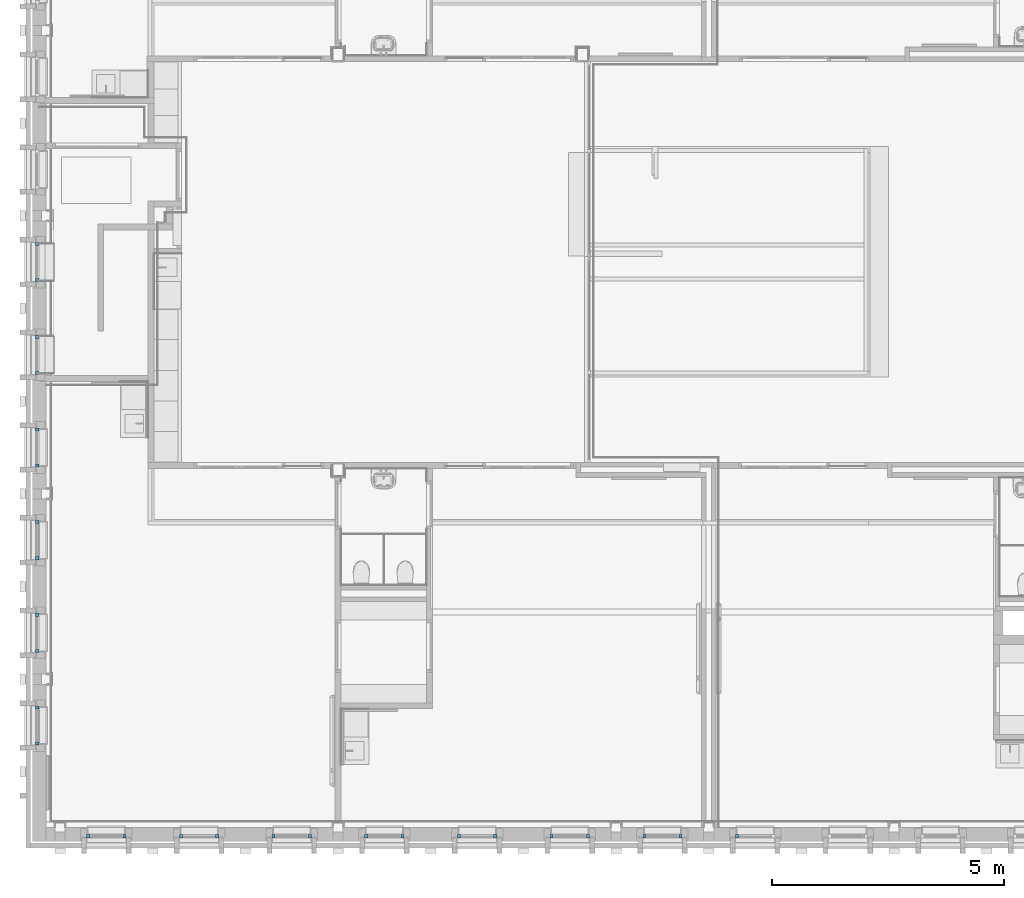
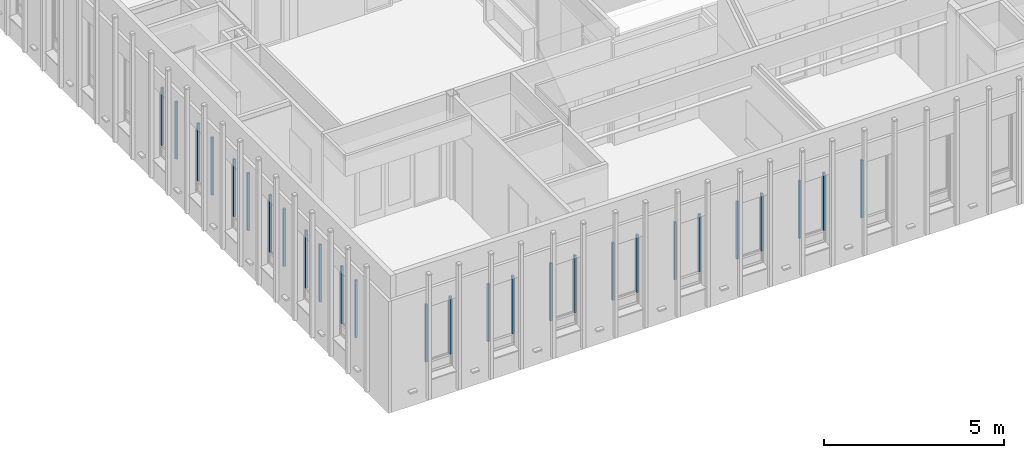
# One storey, part 1 of 118: 27 members, 14 elements without a shape of their own.
"""IFC2X3 building model written with IfcOpenShell, lengths in millimetres."""

from ifc_helpers import new_model, entity, si_unit, converted_unit, derived_unit, direction, frame, origin, origin_2d_with_axis, place, context, subcontext, project, spatial, rectangle, extrude, source, transform, mapped, material, material_list, type_object, type_shapes, element, aggregate, save


model = new_model("IFC2X3")

# Units and contexts
model_context = context("Model", 3, precision=0.01, world=origin(), true_north=direction((6.123031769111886e-17, 1.0)))
plan_context = context("Plan", 3, precision=0.01, world=origin(), true_north=direction((6.123031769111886e-17, 1.0)))
body_context = subcontext(model_context, "Body", "Model", "MODEL_VIEW")
ifc_project = project(units=[si_unit("LENGTHUNIT", "METRE", prefix="MILLI"), si_unit("AREAUNIT", "SQUARE_METRE"), si_unit("VOLUMEUNIT", "CUBIC_METRE"), converted_unit("PLANEANGLEUNIT", "DEGREE", entity("IfcRatioMeasure", 0.017453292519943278), si_unit("PLANEANGLEUNIT", "RADIAN"), dimensions=[0, 0, 0, 0, 0, 0, 0]), si_unit("MASSUNIT", "GRAM", prefix="KILO"), derived_unit("MASSDENSITYUNIT", [(si_unit("MASSUNIT", "GRAM", prefix="KILO"), 1), (si_unit("LENGTHUNIT", "METRE"), -3)]), derived_unit("IONCONCENTRATIONUNIT", [(si_unit("MASSUNIT", "GRAM", prefix="KILO"), 1), (si_unit("LENGTHUNIT", "METRE"), -3)]), derived_unit("MOMENTOFINERTIAUNIT", [(si_unit("LENGTHUNIT", "METRE"), 4)]), si_unit("TIMEUNIT", "SECOND"), si_unit("FREQUENCYUNIT", "HERTZ"), si_unit("THERMODYNAMICTEMPERATUREUNIT", "DEGREE_CELSIUS"), derived_unit("THERMALTRANSMITTANCEUNIT", [(si_unit("MASSUNIT", "GRAM", prefix="KILO"), 1), (si_unit("THERMODYNAMICTEMPERATUREUNIT", "KELVIN"), -1), (si_unit("TIMEUNIT", "SECOND"), -3)]), derived_unit("THERMALCONDUCTANCEUNIT", [(si_unit("MASSUNIT", "GRAM", prefix="KILO"), 1), (si_unit("THERMODYNAMICTEMPERATUREUNIT", "KELVIN"), -1), (si_unit("TIMEUNIT", "SECOND"), -3), (si_unit("LENGTHUNIT", "METRE"), 1)]), derived_unit("VOLUMETRICFLOWRATEUNIT", [(si_unit("LENGTHUNIT", "METRE"), 3), (si_unit("TIMEUNIT", "SECOND"), -1)]), derived_unit("MASSFLOWRATEUNIT", [(si_unit("MASSUNIT", "GRAM", prefix="KILO"), 1), (si_unit("TIMEUNIT", "SECOND"), -1)]), derived_unit("ROTATIONALFREQUENCYUNIT", [(si_unit("TIMEUNIT", "SECOND"), -1)]), si_unit("ELECTRICCURRENTUNIT", "AMPERE"), si_unit("ELECTRICVOLTAGEUNIT", "VOLT"), si_unit("POWERUNIT", "WATT"), si_unit("FORCEUNIT", "NEWTON", prefix="KILO"), si_unit("ILLUMINANCEUNIT", "LUX"), si_unit("LUMINOUSFLUXUNIT", "LUMEN"), si_unit("LUMINOUSINTENSITYUNIT", "CANDELA"), derived_unit("USERDEFINED", [(si_unit("MASSUNIT", "GRAM", prefix="KILO"), -1), (si_unit("LENGTHUNIT", "METRE"), -2), (si_unit("TIMEUNIT", "SECOND"), 3), (si_unit("LUMINOUSFLUXUNIT", "LUMEN"), 1)]), derived_unit("USERDEFINED", [(si_unit("MASSUNIT", "GRAM", prefix="KILO"), 1), (si_unit("TIMEUNIT", "SECOND"), -3), (si_unit("LENGTHUNIT", "METRE"), 3), (si_unit("ELECTRICCURRENTUNIT", "AMPERE"), -2)]), derived_unit("SOUNDPOWERUNIT", [(si_unit("MASSUNIT", "GRAM", prefix="KILO"), 1), (si_unit("TIMEUNIT", "SECOND"), -3), (si_unit("LENGTHUNIT", "METRE"), 2)]), derived_unit("SOUNDPRESSUREUNIT", [(si_unit("MASSUNIT", "GRAM", prefix="KILO"), 1), (si_unit("LENGTHUNIT", "METRE"), -1), (si_unit("TIMEUNIT", "SECOND"), -2)]), derived_unit("LINEARVELOCITYUNIT", [(si_unit("LENGTHUNIT", "METRE"), 1), (si_unit("TIMEUNIT", "SECOND"), -1)]), si_unit("PRESSUREUNIT", "PASCAL"), derived_unit("USERDEFINED", [(si_unit("MASSUNIT", "GRAM", prefix="KILO"), 1), (si_unit("LENGTHUNIT", "METRE"), -2), (si_unit("TIMEUNIT", "SECOND"), -2)]), derived_unit("LINEARFORCEUNIT", [(si_unit("MASSUNIT", "GRAM", prefix="KILO"), 1), (si_unit("TIMEUNIT", "SECOND"), -2)]), derived_unit("PLANARFORCEUNIT", [(si_unit("MASSUNIT", "GRAM", prefix="KILO"), 1), (si_unit("LENGTHUNIT", "METRE"), -1), (si_unit("TIMEUNIT", "SECOND"), -2)]), derived_unit("SPECIFICHEATCAPACITYUNIT", [(si_unit("THERMODYNAMICTEMPERATUREUNIT", "KELVIN"), -1), (si_unit("LENGTHUNIT", "METRE"), 2), (si_unit("TIMEUNIT", "SECOND"), -2)]), derived_unit("HEATINGVALUEUNIT", [(si_unit("LENGTHUNIT", "METRE"), 2), (si_unit("TIMEUNIT", "SECOND"), -2)]), derived_unit("VAPORPERMEABILITYUNIT", [(si_unit("LENGTHUNIT", "METRE"), -1), (si_unit("TIMEUNIT", "SECOND"), 1)]), derived_unit("DYNAMICVISCOSITYUNIT", [(si_unit("MASSUNIT", "GRAM", prefix="KILO"), 1), (si_unit("TIMEUNIT", "SECOND"), -1), (si_unit("LENGTHUNIT", "METRE"), -1)]), derived_unit("THERMALEXPANSIONCOEFFICIENTUNIT", [(si_unit("THERMODYNAMICTEMPERATUREUNIT", "KELVIN"), -1)]), derived_unit("MODULUSOFELASTICITYUNIT", [(si_unit("MASSUNIT", "GRAM", prefix="KILO"), 1), (si_unit("LENGTHUNIT", "METRE"), -1), (si_unit("TIMEUNIT", "SECOND"), -2)]), derived_unit("ISOTHERMALMOISTURECAPACITYUNIT", [(si_unit("LENGTHUNIT", "METRE"), 3), (si_unit("MASSUNIT", "GRAM", prefix="KILO"), -1)]), derived_unit("MOISTUREDIFFUSIVITYUNIT", [(si_unit("TIMEUNIT", "SECOND"), -1), (si_unit("LENGTHUNIT", "METRE"), 2)])], contexts=[model_context, plan_context])

# Site, building, storey
site_placement = place(None, origin())
site = spatial("IfcSite", under=ifc_project, at=site_placement, Name="Locatie", CompositionType="ELEMENT")
building_placement = place(site_placement, origin())
building = spatial("IfcBuilding", under=site, at=building_placement, Name="Bouwwerk", CompositionType="ELEMENT")
storey_placement = place(building_placement, frame((0.0, 0.0, 7800.0)))
storey = spatial("IfcBuildingStorey", under=building, at=storey_placement, Name="02 tweede verdieping", CompositionType="ELEMENT", Elevation=7800.000000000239)

# Curtain wall, member
curtain_wall_type = type_object("IfcCurtainWallType", Name="Curtain Wall:NLRS_21_CW_Ontwerpkozijn_aluminium_RT72", PredefinedType="NOTDEFINED")
curtain_wall_1_placement = place(storey_placement, frame((0.0, 0.0, -7800.0)))
curtain_wall_1 = element("IfcCurtainWall", 1, at=curtain_wall_1_placement, inside=storey, type_object=curtain_wall_type, Name="Curtain Wall:NLRS_21_CW_Ontwerpkozijn_aluminium_RT72", ObjectType="Curtain Wall:NLRS_21_CW_Ontwerpkozijn_aluminium_RT72")
ifc_material_1 = material(Name="a_kozijn")
ifc_material_2 = material(Name="<Unnamed>")
ifc_material_list = material_list([ifc_material_2, ifc_material_1])
member_type_1 = type_object("IfcMemberType", Name="Rectangular Mullion:RT72_Hr_raam", PredefinedType="MULLION", material=ifc_material_list)
shared_shape_1 = source(origin(), body_context, "Body", "SweptSolid", [
    extrude(rectangle(XDim=71.99999999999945, YDim=68.00000000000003, at=origin_2d_with_axis()), frame((-34.0, -36.0, -1953.0), z_axis=(0.0, 0.0, 1.0), x_axis=(0.0, -1.0, 0.0)), (0.0, 0.0, 1.0), 1952.9999999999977),
])
type_shapes(member_type_1, [shared_shape_1])
member_1_placement = place(curtain_wall_1_placement, frame((19725.0, 9847.0, 10795.0)))
member_1 = element("IfcMember", 2, at=member_1_placement, type_object=member_type_1, material=ifc_material_1, Name="Rectangular Mullion:RT72_Hr_raam", ObjectType="Rectangular Mullion:RT72_Hr_raam", context=body_context, shape_type="MappedRepresentation", body=[
    mapped(shared_shape_1, transform((0.0, 0.0, 0.0), scale=1.0)),
])

curtain_wall_2_placement = place(storey_placement, frame((0.0, 0.0, -7800.0)))
curtain_wall_2 = element("IfcCurtainWall", 3, at=curtain_wall_2_placement, inside=storey, type_object=curtain_wall_type, Name="Curtain Wall:NLRS_21_CW_Ontwerpkozijn_aluminium_RT72", ObjectType="Curtain Wall:NLRS_21_CW_Ontwerpkozijn_aluminium_RT72")
member_2_placement = place(curtain_wall_2_placement, frame((13725.0, 9847.0, 10795.0)))
member_2 = element("IfcMember", 4, at=member_2_placement, type_object=member_type_1, material=ifc_material_1, Name="Rectangular Mullion:RT72_Hr_raam", ObjectType="Rectangular Mullion:RT72_Hr_raam", context=body_context, shape_type="MappedRepresentation", body=[
    mapped(shared_shape_1, transform((0.0, 0.0, 0.0), scale=1.0)),
])

curtain_wall_3_placement = place(storey_placement, frame((0.0, 0.0, -7800.0)))
curtain_wall_3 = element("IfcCurtainWall", 5, at=curtain_wall_3_placement, inside=storey, type_object=curtain_wall_type, Name="Curtain Wall:NLRS_21_CW_Ontwerpkozijn_aluminium_RT72", ObjectType="Curtain Wall:NLRS_21_CW_Ontwerpkozijn_aluminium_RT72")
member_3_placement = place(curtain_wall_3_placement, frame((9847.0, 13775.0, 10795.0), z_axis=(0.0, 0.0, 1.0), x_axis=(0.0, -1.0, 0.0)))
member_3 = element("IfcMember", 6, at=member_3_placement, type_object=member_type_1, material=ifc_material_1, Name="Rectangular Mullion:RT72_Hr_raam", ObjectType="Rectangular Mullion:RT72_Hr_raam", context=body_context, shape_type="MappedRepresentation", body=[
    mapped(shared_shape_1, transform((0.0, 0.0, 0.0), scale=1.0)),
])

curtain_wall_4_placement = place(storey_placement, frame((0.0, 0.0, -7800.0)))
curtain_wall_4 = element("IfcCurtainWall", 7, at=curtain_wall_4_placement, inside=storey, type_object=curtain_wall_type, Name="Curtain Wall:NLRS_21_CW_Ontwerpkozijn_aluminium_RT72", ObjectType="Curtain Wall:NLRS_21_CW_Ontwerpkozijn_aluminium_RT72")
member_4_placement = place(curtain_wall_4_placement, frame((9847.0, 17775.0, 10795.0), z_axis=(0.0, 0.0, 1.0), x_axis=(0.0, -1.0, 0.0)))
member_4 = element("IfcMember", 8, at=member_4_placement, type_object=member_type_1, material=ifc_material_1, Name="Rectangular Mullion:RT72_Hr_raam", ObjectType="Rectangular Mullion:RT72_Hr_raam", context=body_context, shape_type="MappedRepresentation", body=[
    mapped(shared_shape_1, transform((0.0, 0.0, 0.0), scale=1.0)),
])

curtain_wall_5_placement = place(storey_placement, frame((0.0, 0.0, -7800.0)))
curtain_wall_5 = element("IfcCurtainWall", 9, at=curtain_wall_5_placement, inside=storey, type_object=curtain_wall_type, Name="Curtain Wall:NLRS_21_CW_Ontwerpkozijn_aluminium_RT72", ObjectType="Curtain Wall:NLRS_21_CW_Ontwerpkozijn_aluminium_RT72")
member_5_placement = place(curtain_wall_5_placement, frame((9847.0, 19775.0, 10795.0), z_axis=(0.0, 0.0, 1.0), x_axis=(0.0, -1.0, 0.0)))
member_5 = element("IfcMember", 10, at=member_5_placement, type_object=member_type_1, material=ifc_material_1, Name="Rectangular Mullion:RT72_Hr_raam", ObjectType="Rectangular Mullion:RT72_Hr_raam", context=body_context, shape_type="MappedRepresentation", body=[
    mapped(shared_shape_1, transform((0.0, 0.0, 0.0), scale=1.0)),
])

curtain_wall_6_placement = place(storey_placement, frame((0.0, 0.0, -7800.0)))
curtain_wall_6 = element("IfcCurtainWall", 11, at=curtain_wall_6_placement, inside=storey, type_object=curtain_wall_type, Name="Curtain Wall:NLRS_21_CW_Ontwerpkozijn_aluminium_RT72", ObjectType="Curtain Wall:NLRS_21_CW_Ontwerpkozijn_aluminium_RT72")
member_6_placement = place(curtain_wall_6_placement, frame((9847.0, 21775.0, 10795.0), z_axis=(0.0, 0.0, 1.0), x_axis=(0.0, -1.0, 0.0)))
member_6 = element("IfcMember", 12, at=member_6_placement, type_object=member_type_1, material=ifc_material_1, Name="Rectangular Mullion:RT72_Hr_raam", ObjectType="Rectangular Mullion:RT72_Hr_raam", context=body_context, shape_type="MappedRepresentation", body=[
    mapped(shared_shape_1, transform((0.0, 0.0, 0.0), scale=1.0)),
])

curtain_wall_7_placement = place(storey_placement, frame((0.0, 0.0, -7800.0)))
curtain_wall_7 = element("IfcCurtainWall", 13, at=curtain_wall_7_placement, inside=storey, type_object=curtain_wall_type, Name="Curtain Wall:NLRS_21_CW_Ontwerpkozijn_aluminium_RT72", ObjectType="Curtain Wall:NLRS_21_CW_Ontwerpkozijn_aluminium_RT72")
member_7_placement = place(curtain_wall_7_placement, frame((11725.0, 9847.0, 10795.0)))
member_7 = element("IfcMember", 14, at=member_7_placement, type_object=member_type_1, material=ifc_material_1, Name="Rectangular Mullion:RT72_Hr_raam", ObjectType="Rectangular Mullion:RT72_Hr_raam", context=body_context, shape_type="MappedRepresentation", body=[
    mapped(shared_shape_1, transform((0.0, 0.0, 0.0), scale=1.0)),
])

curtain_wall_8_placement = place(storey_placement, frame((0.0, 0.0, -7800.0)))
curtain_wall_8 = element("IfcCurtainWall", 15, at=curtain_wall_8_placement, inside=storey, type_object=curtain_wall_type, Name="Curtain Wall:NLRS_21_CW_Ontwerpkozijn_aluminium_RT72", ObjectType="Curtain Wall:NLRS_21_CW_Ontwerpkozijn_aluminium_RT72")
member_8_placement = place(curtain_wall_8_placement, frame((23725.0, 9847.0, 10795.0)))
member_8 = element("IfcMember", 16, at=member_8_placement, type_object=member_type_1, material=ifc_material_1, Name="Rectangular Mullion:RT72_Hr_raam", ObjectType="Rectangular Mullion:RT72_Hr_raam", context=body_context, shape_type="MappedRepresentation", body=[
    mapped(shared_shape_1, transform((0.0, 0.0, 0.0), scale=1.0)),
])

curtain_wall_9_placement = place(storey_placement, frame((0.0, 0.0, -7800.0)))
curtain_wall_9 = element("IfcCurtainWall", 17, at=curtain_wall_9_placement, inside=storey, type_object=curtain_wall_type, Name="Curtain Wall:NLRS_21_CW_Ontwerpkozijn_aluminium_RT72", ObjectType="Curtain Wall:NLRS_21_CW_Ontwerpkozijn_aluminium_RT72")
member_9_placement = place(curtain_wall_9_placement, frame((17725.0, 9847.0, 10795.0)))
member_9 = element("IfcMember", 18, at=member_9_placement, type_object=member_type_1, material=ifc_material_1, Name="Rectangular Mullion:RT72_Hr_raam", ObjectType="Rectangular Mullion:RT72_Hr_raam", context=body_context, shape_type="MappedRepresentation", body=[
    mapped(shared_shape_1, transform((0.0, 0.0, 0.0), scale=1.0)),
])

curtain_wall_10_placement = place(storey_placement, frame((0.0, 0.0, -7800.0)))
curtain_wall_10 = element("IfcCurtainWall", 19, at=curtain_wall_10_placement, inside=storey, type_object=curtain_wall_type, Name="Curtain Wall:NLRS_21_CW_Ontwerpkozijn_aluminium_RT72", ObjectType="Curtain Wall:NLRS_21_CW_Ontwerpkozijn_aluminium_RT72")
member_10_placement = place(curtain_wall_10_placement, frame((21725.0, 9847.0, 10795.0)))
member_10 = element("IfcMember", 20, at=member_10_placement, type_object=member_type_1, material=ifc_material_1, Name="Rectangular Mullion:RT72_Hr_raam", ObjectType="Rectangular Mullion:RT72_Hr_raam", context=body_context, shape_type="MappedRepresentation", body=[
    mapped(shared_shape_1, transform((0.0, 0.0, 0.0), scale=1.0)),
])

curtain_wall_11_placement = place(storey_placement, frame((0.0, 0.0, -7800.0)))
curtain_wall_11 = element("IfcCurtainWall", 21, at=curtain_wall_11_placement, inside=storey, type_object=curtain_wall_type, Name="Curtain Wall:NLRS_21_CW_Ontwerpkozijn_aluminium_RT72", ObjectType="Curtain Wall:NLRS_21_CW_Ontwerpkozijn_aluminium_RT72")
member_11_placement = place(curtain_wall_11_placement, frame((15725.0, 9847.0, 10795.0)))
member_11 = element("IfcMember", 22, at=member_11_placement, type_object=member_type_1, material=ifc_material_1, Name="Rectangular Mullion:RT72_Hr_raam", ObjectType="Rectangular Mullion:RT72_Hr_raam", context=body_context, shape_type="MappedRepresentation", body=[
    mapped(shared_shape_1, transform((0.0, 0.0, 0.0), scale=1.0)),
])

curtain_wall_12_placement = place(storey_placement, frame((0.0, 0.0, -7800.0)))
curtain_wall_12 = element("IfcCurtainWall", 23, at=curtain_wall_12_placement, inside=storey, type_object=curtain_wall_type, Name="Curtain Wall:NLRS_21_CW_Ontwerpkozijn_aluminium_RT72", ObjectType="Curtain Wall:NLRS_21_CW_Ontwerpkozijn_aluminium_RT72")
member_12_placement = place(curtain_wall_12_placement, frame((9847.0, 11775.0, 10795.0), z_axis=(0.0, 0.0, 1.0), x_axis=(0.0, -1.0, 0.0)))
member_12 = element("IfcMember", 24, at=member_12_placement, type_object=member_type_1, material=ifc_material_1, Name="Rectangular Mullion:RT72_Hr_raam", ObjectType="Rectangular Mullion:RT72_Hr_raam", context=body_context, shape_type="MappedRepresentation", body=[
    mapped(shared_shape_1, transform((0.0, 0.0, 0.0), scale=1.0)),
])

curtain_wall_13_placement = place(storey_placement, frame((0.0, 0.0, -7800.0)))
curtain_wall_13 = element("IfcCurtainWall", 25, at=curtain_wall_13_placement, inside=storey, type_object=curtain_wall_type, Name="Curtain Wall:NLRS_21_CW_Ontwerpkozijn_aluminium_RT72", ObjectType="Curtain Wall:NLRS_21_CW_Ontwerpkozijn_aluminium_RT72")
member_13_placement = place(curtain_wall_13_placement, frame((9847.0, 15775.0, 10795.0), z_axis=(0.0, 0.0, 1.0), x_axis=(0.0, -1.0, 0.0)))
member_13 = element("IfcMember", 26, at=member_13_placement, type_object=member_type_1, material=ifc_material_1, Name="Rectangular Mullion:RT72_Hr_raam", ObjectType="Rectangular Mullion:RT72_Hr_raam", context=body_context, shape_type="MappedRepresentation", body=[
    mapped(shared_shape_1, transform((0.0, 0.0, 0.0), scale=1.0)),
])

curtain_wall_14_placement = place(storey_placement, frame((0.0, 0.0, -7800.0)))
curtain_wall_14 = element("IfcCurtainWall", 27, at=curtain_wall_14_placement, inside=storey, type_object=curtain_wall_type, Name="Curtain Wall:NLRS_21_CW_Ontwerpkozijn_aluminium_RT72", ObjectType="Curtain Wall:NLRS_21_CW_Ontwerpkozijn_aluminium_RT72")
member_type_2 = type_object("IfcMemberType", Name="Rectangular Mullion:RT72_Hl_raam", PredefinedType="MULLION", material=ifc_material_list)
shared_shape_2 = source(origin(), body_context, "Body", "SweptSolid", [
    extrude(rectangle(XDim=71.99999999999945, YDim=68.00000000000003, at=origin_2d_with_axis()), frame((-34.0, -36.0, -1953.0), z_axis=(0.0, 0.0, 1.0), x_axis=(0.0, -1.0, 0.0)), (0.0, 0.0, 1.0), 1952.9999999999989),
])
type_shapes(member_type_2, [shared_shape_2])
member_14_placement = place(curtain_wall_14_placement, frame((24875.0, 9847.0, 8842.0), z_axis=(0.0, 0.0, -1.0), x_axis=(-1.0, 0.0, 0.0)))
member_14 = element("IfcMember", 28, at=member_14_placement, type_object=member_type_2, material=ifc_material_1, Name="Rectangular Mullion:RT72_Hl_raam", ObjectType="Rectangular Mullion:RT72_Hl_raam", context=body_context, shape_type="MappedRepresentation", body=[
    mapped(shared_shape_2, transform((0.0, 0.0, 0.0), scale=1.0)),
])
aggregate(curtain_wall_14, [member_14])

# Member
member_15_placement = place(curtain_wall_1_placement, frame((18875.0, 9847.0, 8842.0), z_axis=(0.0, 0.0, -1.0), x_axis=(-1.0, 0.0, 0.0)))
member_15 = element("IfcMember", 29, at=member_15_placement, type_object=member_type_2, material=ifc_material_1, Name="Rectangular Mullion:RT72_Hl_raam", ObjectType="Rectangular Mullion:RT72_Hl_raam", context=body_context, shape_type="MappedRepresentation", body=[
    mapped(shared_shape_2, transform((0.0, 0.0, 0.0), scale=1.0)),
])

aggregate(curtain_wall_1, [member_1, member_15])

member_16_placement = place(curtain_wall_2_placement, frame((12875.0, 9847.0, 8842.0), z_axis=(0.0, 0.0, -1.0), x_axis=(-1.0, 0.0, 0.0)))
member_16 = element("IfcMember", 30, at=member_16_placement, type_object=member_type_2, material=ifc_material_1, Name="Rectangular Mullion:RT72_Hl_raam", ObjectType="Rectangular Mullion:RT72_Hl_raam", context=body_context, shape_type="MappedRepresentation", body=[
    mapped(shared_shape_2, transform((0.0, 0.0, 0.0), scale=1.0)),
])

aggregate(curtain_wall_2, [member_2, member_16])

member_17_placement = place(curtain_wall_3_placement, frame((9847.0, 14625.0, 8842.0), z_axis=(0.0, 0.0, -1.0), x_axis=(0.0, 1.0, 0.0)))
member_17 = element("IfcMember", 31, at=member_17_placement, type_object=member_type_2, material=ifc_material_1, Name="Rectangular Mullion:RT72_Hl_raam", ObjectType="Rectangular Mullion:RT72_Hl_raam", context=body_context, shape_type="MappedRepresentation", body=[
    mapped(shared_shape_2, transform((0.0, 0.0, 0.0), scale=1.0)),
])

aggregate(curtain_wall_3, [member_3, member_17])

member_18_placement = place(curtain_wall_4_placement, frame((9847.0, 18625.0, 8842.0), z_axis=(0.0, 0.0, -1.0), x_axis=(0.0, 1.0, 0.0)))
member_18 = element("IfcMember", 32, at=member_18_placement, type_object=member_type_2, material=ifc_material_1, Name="Rectangular Mullion:RT72_Hl_raam", ObjectType="Rectangular Mullion:RT72_Hl_raam", context=body_context, shape_type="MappedRepresentation", body=[
    mapped(shared_shape_2, transform((0.0, 0.0, 0.0), scale=1.0)),
])

aggregate(curtain_wall_4, [member_4, member_18])

member_19_placement = place(curtain_wall_5_placement, frame((9847.0, 20625.0, 8842.0), z_axis=(0.0, 0.0, -1.0), x_axis=(0.0, 1.0, 0.0)))
member_19 = element("IfcMember", 33, at=member_19_placement, type_object=member_type_2, material=ifc_material_1, Name="Rectangular Mullion:RT72_Hl_raam", ObjectType="Rectangular Mullion:RT72_Hl_raam", context=body_context, shape_type="MappedRepresentation", body=[
    mapped(shared_shape_2, transform((0.0, 0.0, 0.0), scale=1.0)),
])

aggregate(curtain_wall_5, [member_5, member_19])

member_20_placement = place(curtain_wall_6_placement, frame((9847.0, 22625.0, 8842.0), z_axis=(0.0, 0.0, -1.0), x_axis=(0.0, 1.0, 0.0)))
member_20 = element("IfcMember", 34, at=member_20_placement, type_object=member_type_2, material=ifc_material_1, Name="Rectangular Mullion:RT72_Hl_raam", ObjectType="Rectangular Mullion:RT72_Hl_raam", context=body_context, shape_type="MappedRepresentation", body=[
    mapped(shared_shape_2, transform((0.0, 0.0, 0.0), scale=1.0)),
])

aggregate(curtain_wall_6, [member_6, member_20])

member_21_placement = place(curtain_wall_7_placement, frame((10875.0, 9847.0, 8842.0), z_axis=(0.0, 0.0, -1.0), x_axis=(-1.0, 0.0, 0.0)))
member_21 = element("IfcMember", 35, at=member_21_placement, type_object=member_type_2, material=ifc_material_1, Name="Rectangular Mullion:RT72_Hl_raam", ObjectType="Rectangular Mullion:RT72_Hl_raam", context=body_context, shape_type="MappedRepresentation", body=[
    mapped(shared_shape_2, transform((0.0, 0.0, 0.0), scale=1.0)),
])

aggregate(curtain_wall_7, [member_7, member_21])

member_22_placement = place(curtain_wall_8_placement, frame((22875.0, 9847.0, 8842.0), z_axis=(0.0, 0.0, -1.0), x_axis=(-1.0, 0.0, 0.0)))
member_22 = element("IfcMember", 36, at=member_22_placement, type_object=member_type_2, material=ifc_material_1, Name="Rectangular Mullion:RT72_Hl_raam", ObjectType="Rectangular Mullion:RT72_Hl_raam", context=body_context, shape_type="MappedRepresentation", body=[
    mapped(shared_shape_2, transform((0.0, 0.0, 0.0), scale=1.0)),
])

aggregate(curtain_wall_8, [member_8, member_22])

member_23_placement = place(curtain_wall_9_placement, frame((16875.0, 9847.0, 8842.0), z_axis=(0.0, 0.0, -1.0), x_axis=(-1.0, 0.0, 0.0)))
member_23 = element("IfcMember", 37, at=member_23_placement, type_object=member_type_2, material=ifc_material_1, Name="Rectangular Mullion:RT72_Hl_raam", ObjectType="Rectangular Mullion:RT72_Hl_raam", context=body_context, shape_type="MappedRepresentation", body=[
    mapped(shared_shape_2, transform((0.0, 0.0, 0.0), scale=1.0)),
])

aggregate(curtain_wall_9, [member_9, member_23])

member_24_placement = place(curtain_wall_10_placement, frame((20875.0, 9847.0, 8842.0), z_axis=(0.0, 0.0, -1.0), x_axis=(-1.0, 0.0, 0.0)))
member_24 = element("IfcMember", 38, at=member_24_placement, type_object=member_type_2, material=ifc_material_1, Name="Rectangular Mullion:RT72_Hl_raam", ObjectType="Rectangular Mullion:RT72_Hl_raam", context=body_context, shape_type="MappedRepresentation", body=[
    mapped(shared_shape_2, transform((0.0, 0.0, 0.0), scale=1.0)),
])

aggregate(curtain_wall_10, [member_10, member_24])

member_25_placement = place(curtain_wall_11_placement, frame((14875.0, 9847.0, 8842.0), z_axis=(0.0, 0.0, -1.0), x_axis=(-1.0, 0.0, 0.0)))
member_25 = element("IfcMember", 39, at=member_25_placement, type_object=member_type_2, material=ifc_material_1, Name="Rectangular Mullion:RT72_Hl_raam", ObjectType="Rectangular Mullion:RT72_Hl_raam", context=body_context, shape_type="MappedRepresentation", body=[
    mapped(shared_shape_2, transform((0.0, 0.0, 0.0), scale=1.0)),
])

aggregate(curtain_wall_11, [member_11, member_25])

member_26_placement = place(curtain_wall_12_placement, frame((9847.0, 12625.0, 8842.0), z_axis=(0.0, 0.0, -1.0), x_axis=(0.0, 1.0, 0.0)))
member_26 = element("IfcMember", 40, at=member_26_placement, type_object=member_type_2, material=ifc_material_1, Name="Rectangular Mullion:RT72_Hl_raam", ObjectType="Rectangular Mullion:RT72_Hl_raam", context=body_context, shape_type="MappedRepresentation", body=[
    mapped(shared_shape_2, transform((0.0, 0.0, 0.0), scale=1.0)),
])

aggregate(curtain_wall_12, [member_12, member_26])

member_27_placement = place(curtain_wall_13_placement, frame((9847.0, 16625.0, 8842.0), z_axis=(0.0, 0.0, -1.0), x_axis=(0.0, 1.0, 0.0)))
member_27 = element("IfcMember", 41, at=member_27_placement, type_object=member_type_2, material=ifc_material_1, Name="Rectangular Mullion:RT72_Hl_raam", ObjectType="Rectangular Mullion:RT72_Hl_raam", context=body_context, shape_type="MappedRepresentation", body=[
    mapped(shared_shape_2, transform((0.0, 0.0, 0.0), scale=1.0)),
])

aggregate(curtain_wall_13, [member_13, member_27])

save(model, "model.ifc")
